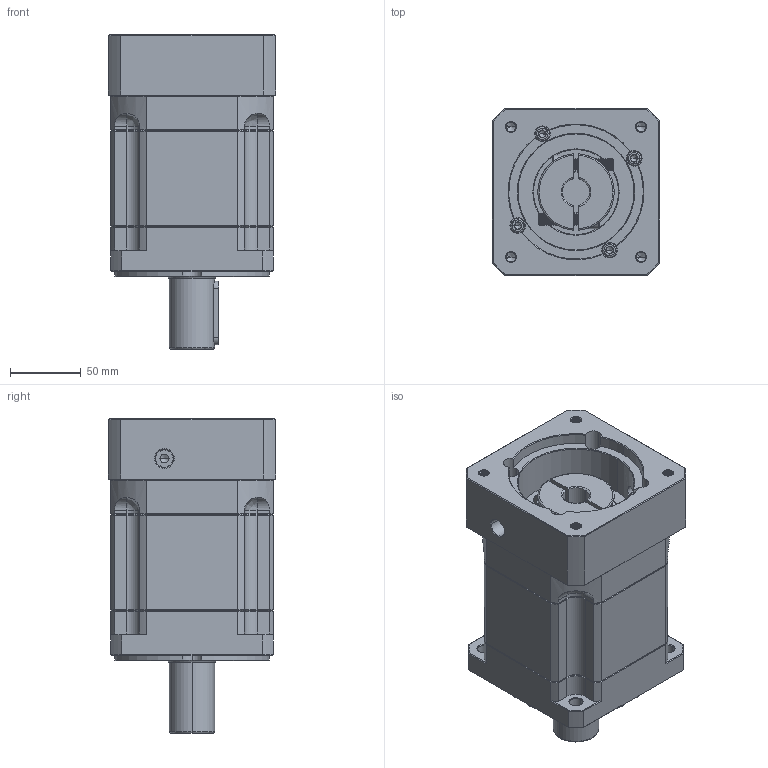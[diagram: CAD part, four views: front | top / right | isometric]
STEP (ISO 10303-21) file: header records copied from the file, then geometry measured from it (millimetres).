
FILE_DESCRIPTION (( 'STEP AP214' ), '1' );
FILE_NAME ('ZB115A-D32-L2-P2-19-95-130-M8.step', '2023-08-26T06:30:20', ( '' ), ( '' ), 'SwSTEP 2.0', 'SolidWorks 2016', '' );
FILE_SCHEMA (( 'AUTOMOTIVE_DESIGN' ));
Length unit declared in the file: millimetre
Products named in the file (1): ZB115A-D32-L2-P2-19-95-130-M8
Bounding box: 118 x 118 x 222 mm (x, y, z)
Volume: 1909484.5 mm3; surface area: 187292.5 mm2
Topology: 6 solids, 6 shells, 2403 faces, 6322 edges, 4015 vertices
Faces by surface type: plane 1144, cylinder 444, bspline 423, cone 372, torus 20
Entity records: 129888 total; most frequent: CARTESIAN_POINT 47738, ORIENTED_EDGE 12576, DIRECTION 9963, EDGE_CURVE 6288, VERTEX_POINT 4015, LINE 4005, VECTOR 4005, AXIS2_PLACEMENT_3D 2979
